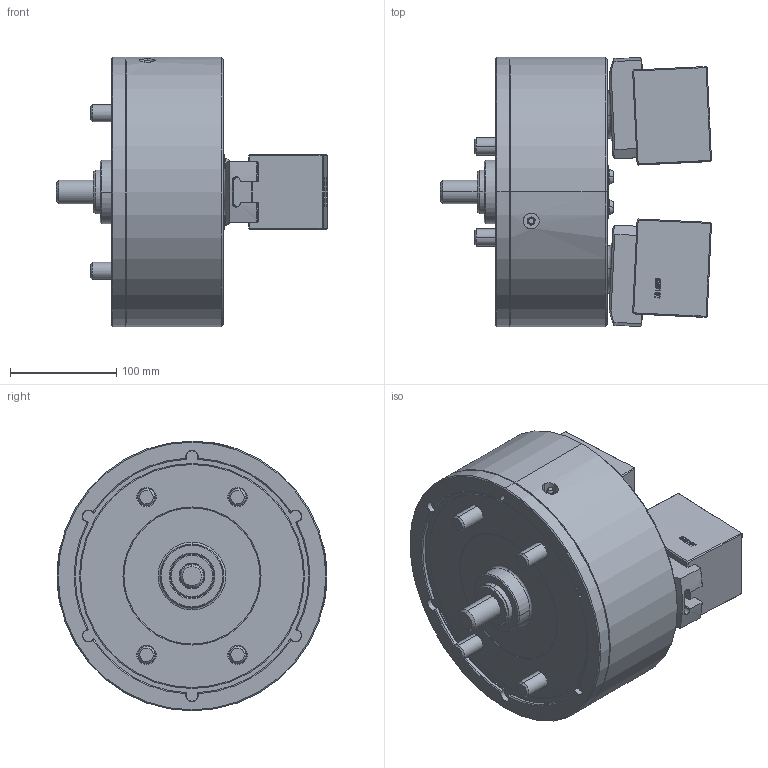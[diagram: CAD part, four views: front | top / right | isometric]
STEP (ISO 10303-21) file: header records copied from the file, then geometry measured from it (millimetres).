
FILE_DESCRIPTION (( 'STEP AP214' ), '1' );
FILE_NAME ('PWT10_UC_OD.STEP', '2019-10-21T06:58:39', ( '' ), ( '' ), 'SwSTEP 2.0', 'SolidWorks 2017', '' );
FILE_SCHEMA (( 'AUTOMOTIVE_DESIGN' ));
Length unit declared in the file: millimetre
Products named in the file (5): 結合_OD; 0030116025; 61P332345; 61P420193; PWT10_UC_OD
Assembly tree (9 placements, depth 2):
  PWT10_UC_OD
    61P420193  x2
    61P332345  x2
    0030116025  x4
    結合_OD
Bounding box: 255.25 x 254 x 254 mm (x, y, z)
Volume: 6175949 mm3; surface area: 426253.1 mm2
Topology: 9 solids, 10 shells, 1594 faces, 3969 edges, 2503 vertices
Faces by surface type: plane 830, cone 252, bspline 245, cylinder 209, torus 54, sphere 4
Entity records: 47909 total; most frequent: CARTESIAN_POINT 17466, ORIENTED_EDGE 6608, DIRECTION 5602, EDGE_CURVE 3304, VERTEX_POINT 2100, VECTOR 1892, LINE 1892, AXIS2_PLACEMENT_3D 1855
